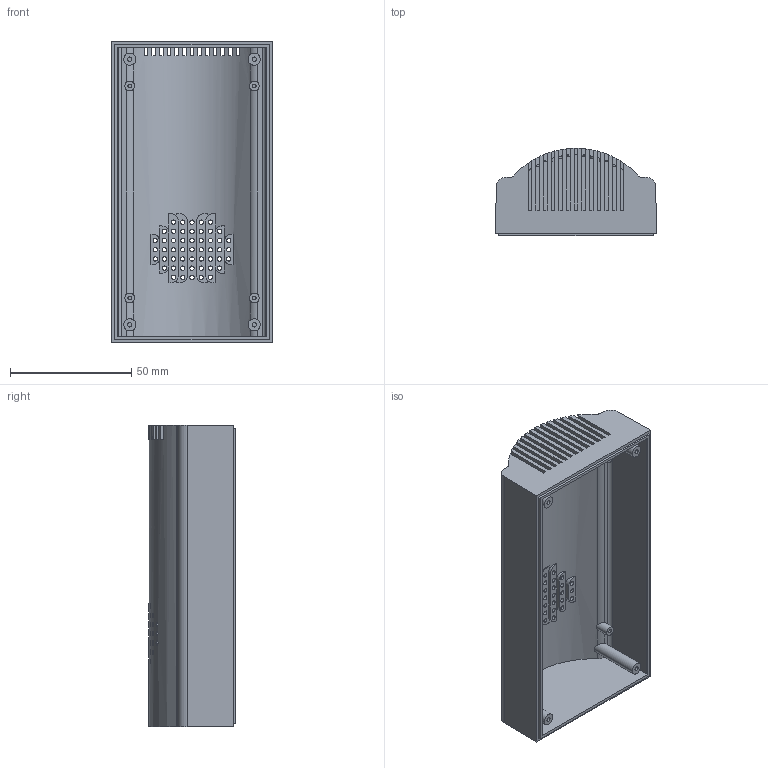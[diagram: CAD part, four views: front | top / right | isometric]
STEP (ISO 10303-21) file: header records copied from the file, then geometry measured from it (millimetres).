
FILE_DESCRIPTION (( 'STEP AP214' ), '1' );
FILE_NAME ('Tapa PP77B.STEP', '2018-01-05T11:19:32', ( 'aaa' ), ( '' ), 'SwSTEP 2.0', 'SolidWorks 2013', '' );
FILE_SCHEMA (( 'AUTOMOTIVE_DESIGN' ));
Length unit declared in the file: millimetre
Products named in the file (1): Tapa PP77B
Bounding box: 66.5 x 35.85 x 124.5 mm (x, y, z)
Volume: 43695.5 mm3; surface area: 39776.8 mm2
Topology: 1 solids, 1 shells, 296 faces, 916 edges, 608 vertices
Faces by surface type: cylinder 168, plane 128
Entity records: 12642 total; most frequent: CARTESIAN_POINT 4265, ORIENTED_EDGE 1832, DIRECTION 1606, EDGE_CURVE 916, VERTEX_POINT 608, AXIS2_PLACEMENT_3D 557, LINE 492, VECTOR 492
